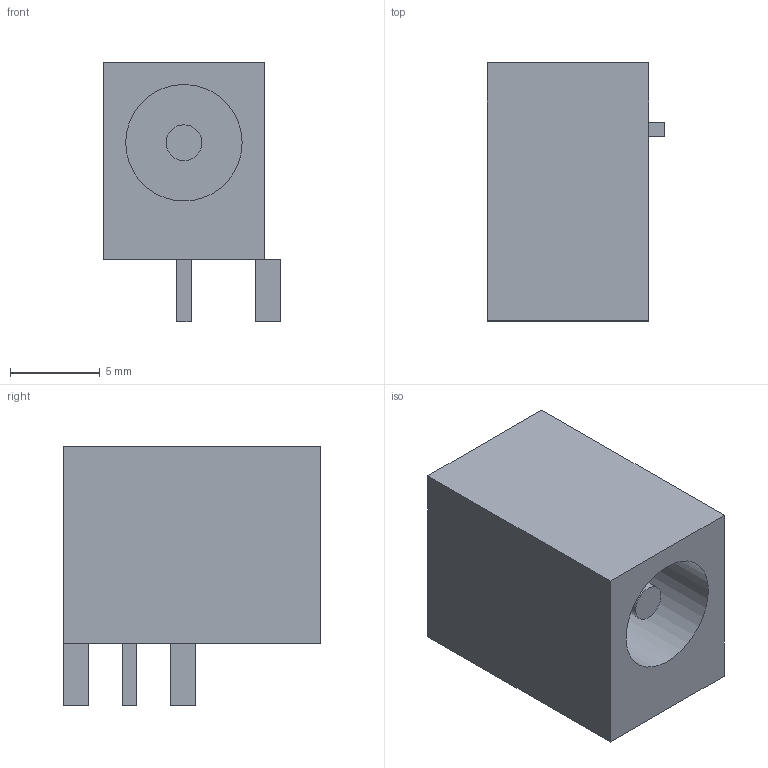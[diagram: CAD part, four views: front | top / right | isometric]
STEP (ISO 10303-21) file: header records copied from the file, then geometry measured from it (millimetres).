
FILE_DESCRIPTION(('Open CASCADE Model'),'2;1');
FILE_NAME('Open CASCADE Shape Model','2026-11-07T14:42:47',('Author'),( 'Open CASCADE'),'Open CASCADE STEP processor 7.9','Open CASCADE 7.9' ,'Unknown');
FILE_SCHEMA(('AUTOMOTIVE_DESIGN { 1 0 10303 214 1 1 1 1 }'));
Length unit declared in the file: millimetre
Products named in the file (6): PJ102AH-drawing-envelope; housing; centre-positive-pin; lead1; lead2; lead3
Assembly tree (5 placements, depth 2):
  PJ102AH-drawing-envelope
    housing
    centre-positive-pin
    lead1
    lead2
    lead3
Bounding box: 9.9 x 14.4 x 14.5 mm (x, y, z)
Volume: 1147.6 mm3; surface area: 1077.3 mm2
Topology: 5 solids, 5 shells, 29 faces, 54 edges, 36 vertices
Faces by surface type: plane 27, cylinder 2
Full cylindrical faces by diameter (mm): 2 x1, 6.5 x1
Entity records: 1548 total; most frequent: DIRECTION 236, CARTESIAN_POINT 233, LINE 154, VECTOR 154, ORIENTED_EDGE 108, PCURVE 108, DEFINITIONAL_REPRESENTATION 108, EDGE_CURVE 54
